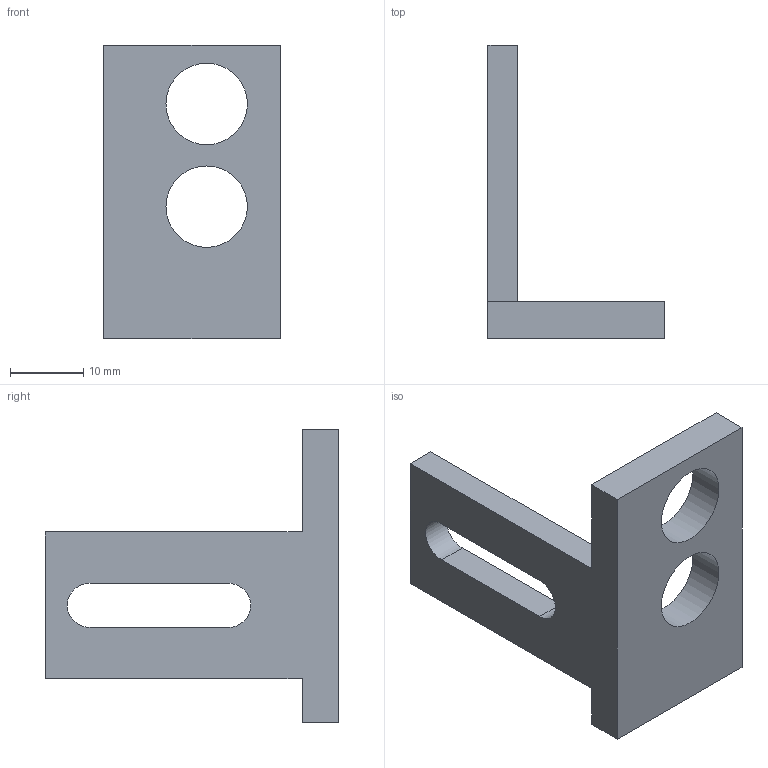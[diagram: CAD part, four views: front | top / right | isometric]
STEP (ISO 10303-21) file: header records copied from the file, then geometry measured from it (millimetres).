
FILE_DESCRIPTION(/* description */ (''),/* implementation_level */ '2;1');
FILE_NAME(/* name */ '/Users/davidflorian/Library/Mobile Documents/com~apple~CloudDocs/Vanderbilt/Papers/OTTO/Supplemental Material/3D-Printable-Components-STEP-Files/Palette.step',/* time_stamp */ '2020-06-30T23:18:53-05:00',/* author */ (''),/* organization */ (''),/* preprocessor_version */ 'ST-DEVELOPER v18.1',/* originating_system */ 'Autodesk Translation Framework v9.3.0.1241',/* authorisation */ '');
FILE_SCHEMA (('AUTOMOTIVE_DESIGN { 1 0 10303 214 3 1 1 }'));
Length unit declared in the file: millimetre
Products named in the file (1): palette
Bounding box: 24 x 40 x 40 mm (x, y, z)
Volume: 6063.4 mm3; surface area: 4144.6 mm2
Topology: 1 solids, 1 shells, 16 faces, 42 edges, 28 vertices
Faces by surface type: plane 12, cylinder 4
Full cylindrical faces by diameter (mm): 11.1 x2
Entity records: 539 total; most frequent: CARTESIAN_POINT 87, ORIENTED_EDGE 84, DIRECTION 84, EDGE_CURVE 42, LINE 34, VECTOR 34, VERTEX_POINT 28, AXIS2_PLACEMENT_3D 25
